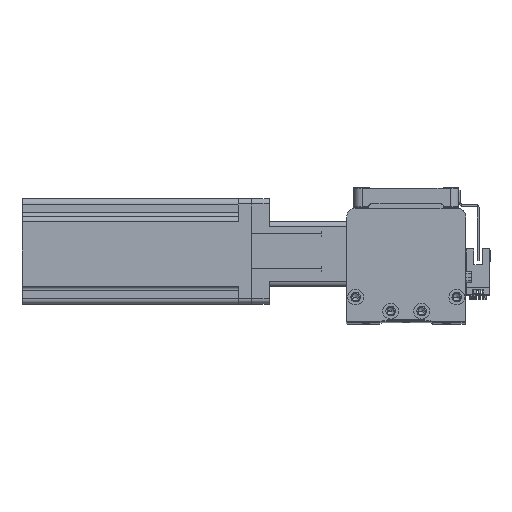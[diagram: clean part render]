
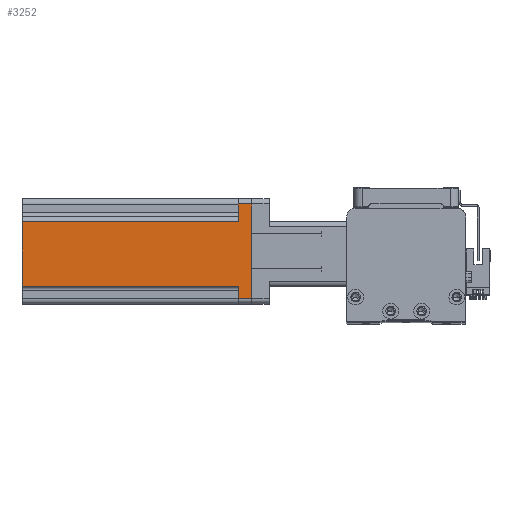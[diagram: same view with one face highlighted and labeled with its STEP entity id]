
A CAD part, top view. The second image highlights one B-rep face of the part: STEP entity #3252.
In plain terms, the highlighted planar face has unit normal (0, 0, 1) as drawn and (-1, 0, 0) by its records, which use the part's own axes.
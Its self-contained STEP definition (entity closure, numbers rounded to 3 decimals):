
#215 = CARTESIAN_POINT ( 'NONE',  ( -30., -17., 130.7 ) ) ;
#2025 = CARTESIAN_POINT ( 'NONE',  ( -30., 20., 7.5 ) ) ;
#3252 = ADVANCED_FACE ( 'NONE', ( #36707 ), #34440, .F. ) ;
#3423 = DIRECTION ( 'NONE',  ( 0., 0., 1. ) ) ;
#3931 = CARTESIAN_POINT ( 'NONE',  ( -30., -27., 0. ) ) ;
#4017 = CARTESIAN_POINT ( 'NONE',  ( -30., -17., 130.7 ) ) ;
#4576 = EDGE_CURVE ( 'NONE', #15937, #21204, #19552, .T. ) ;
#5245 = DIRECTION ( 'NONE',  ( 0., 0., 1. ) ) ;
#6115 = CARTESIAN_POINT ( 'NONE',  ( -30., 20., 7.5 ) ) ;
#6229 = VECTOR ( 'NONE', #13606, 1000. ) ;
#7217 = LINE ( 'NONE', #35434, #15993 ) ;
#10044 = ORIENTED_EDGE ( 'NONE', *, *, #23176, .T. ) ;
#10268 = CARTESIAN_POINT ( 'NONE',  ( -30., -30., 0. ) ) ;
#10793 = CARTESIAN_POINT ( 'NONE',  ( -30., -17., 7.5 ) ) ;
#11602 = VERTEX_POINT ( 'NONE', #38183 ) ;
#11956 = ORIENTED_EDGE ( 'NONE', *, *, #4576, .F. ) ;
#12349 = ORIENTED_EDGE ( 'NONE', *, *, #30351, .F. ) ;
#12734 = EDGE_CURVE ( 'NONE', #34695, #41520, #23428, .T. ) ;
#13071 = CARTESIAN_POINT ( 'NONE',  ( -30., 27., 0. ) ) ;
#13606 = DIRECTION ( 'NONE',  ( 0., -1., 0. ) ) ;
#13960 = CARTESIAN_POINT ( 'NONE',  ( -30., -27., 130.7 ) ) ;
#13965 = LINE ( 'NONE', #10268, #6229 ) ;
#15937 = VERTEX_POINT ( 'NONE', #10793 ) ;
#15993 = VECTOR ( 'NONE', #22418, 1000. ) ;
#16971 = VERTEX_POINT ( 'NONE', #4017 ) ;
#17560 = ORIENTED_EDGE ( 'NONE', *, *, #12734, .T. ) ;
#17594 = VECTOR ( 'NONE', #25264, 1000. ) ;
#17855 = LINE ( 'NONE', #2025, #26615 ) ;
#18223 = CARTESIAN_POINT ( 'NONE',  ( -30., -30., 130.7 ) ) ;
#18647 = LINE ( 'NONE', #34993, #17594 ) ;
#19552 = LINE ( 'NONE', #26172, #35966 ) ;
#21204 = VERTEX_POINT ( 'NONE', #29443 ) ;
#21556 = DIRECTION ( 'NONE',  ( 0., 0., -1. ) ) ;
#22418 = DIRECTION ( 'NONE',  ( 0., -1., 0. ) ) ;
#22462 = VERTEX_POINT ( 'NONE', #13071 ) ;
#23176 = EDGE_CURVE ( 'NONE', #22462, #37642, #13965, .T. ) ;
#23299 = CARTESIAN_POINT ( 'NONE',  ( -30., 27., 7.5 ) ) ;
#23428 = LINE ( 'NONE', #28987, #39795 ) ;
#23499 = ORIENTED_EDGE ( 'NONE', *, *, #40059, .T. ) ;
#24725 = LINE ( 'NONE', #13960, #41129 ) ;
#25264 = DIRECTION ( 'NONE',  ( 0., 0., -1. ) ) ;
#26172 = CARTESIAN_POINT ( 'NONE',  ( -30., -30., 7.5 ) ) ;
#26615 = VECTOR ( 'NONE', #5245, 1000. ) ;
#26889 = ORIENTED_EDGE ( 'NONE', *, *, #36896, .T. ) ;
#26952 = EDGE_CURVE ( 'NONE', #37642, #21204, #24725, .T. ) ;
#28310 = EDGE_LOOP ( 'NONE', ( #11956, #26889, #36602, #12349, #17560, #23499, #10044, #35371 ) ) ;
#28987 = CARTESIAN_POINT ( 'NONE',  ( -30., 30., 7.5 ) ) ;
#29443 = CARTESIAN_POINT ( 'NONE',  ( -30., -27., 7.5 ) ) ;
#30351 = EDGE_CURVE ( 'NONE', #34695, #11602, #17855, .T. ) ;
#31937 = VECTOR ( 'NONE', #3423, 1000. ) ;
#32277 = DIRECTION ( 'NONE',  ( 0., 1., 0. ) ) ;
#32635 = DIRECTION ( 'NONE',  ( 0., -1., 0. ) ) ;
#34440 = PLANE ( 'NONE',  #40081 ) ;
#34695 = VERTEX_POINT ( 'NONE', #6115 ) ;
#34993 = CARTESIAN_POINT ( 'NONE',  ( -30., 27., 130.7 ) ) ;
#35371 = ORIENTED_EDGE ( 'NONE', *, *, #26952, .T. ) ;
#35434 = CARTESIAN_POINT ( 'NONE',  ( -30., -30., 130.7 ) ) ;
#35966 = VECTOR ( 'NONE', #32635, 1000. ) ;
#36602 = ORIENTED_EDGE ( 'NONE', *, *, #36760, .F. ) ;
#36707 = FACE_OUTER_BOUND ( 'NONE', #28310, .T. ) ;
#36760 = EDGE_CURVE ( 'NONE', #11602, #16971, #7217, .T. ) ;
#36896 = EDGE_CURVE ( 'NONE', #15937, #16971, #40655, .T. ) ;
#37642 = VERTEX_POINT ( 'NONE', #3931 ) ;
#38183 = CARTESIAN_POINT ( 'NONE',  ( -30., 20., 130.7 ) ) ;
#39795 = VECTOR ( 'NONE', #32277, 1000. ) ;
#40059 = EDGE_CURVE ( 'NONE', #41520, #22462, #18647, .T. ) ;
#40081 = AXIS2_PLACEMENT_3D ( 'NONE', #18223, #41183, #21556 ) ;
#40102 = DIRECTION ( 'NONE',  ( 0., 0., 1. ) ) ;
#40655 = LINE ( 'NONE', #215, #31937 ) ;
#41129 = VECTOR ( 'NONE', #40102, 1000. ) ;
#41183 = DIRECTION ( 'NONE',  ( 1., 0., 0. ) ) ;
#41520 = VERTEX_POINT ( 'NONE', #23299 ) ;
